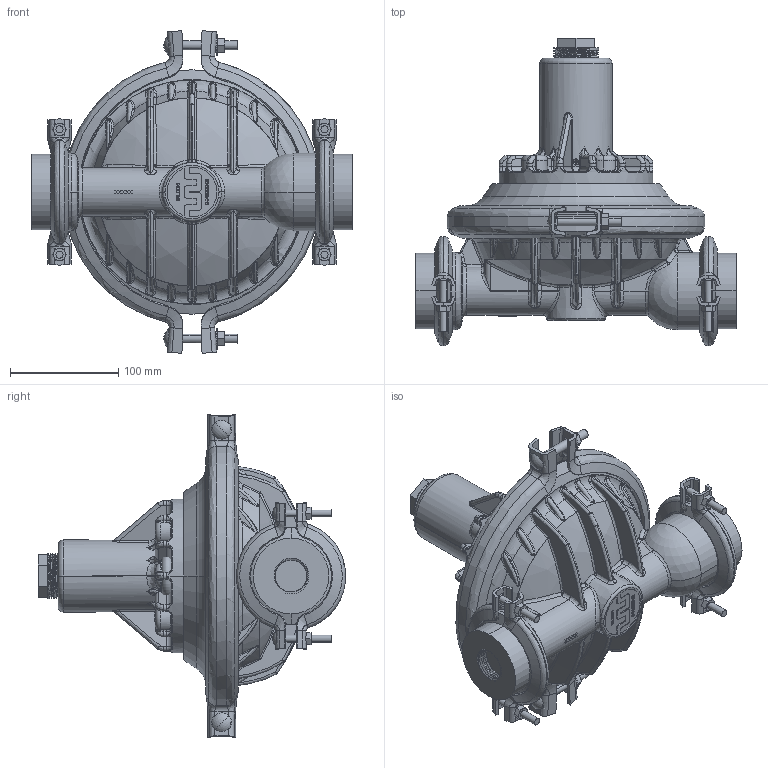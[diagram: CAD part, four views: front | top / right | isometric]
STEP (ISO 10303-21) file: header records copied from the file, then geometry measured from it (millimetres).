
FILE_DESCRIPTION (( 'STEP AP214' ), '1' );
FILE_NAME ('SD1-Metal_Top.STEP', '2026-04-30T07:03:52', ( '' ), ( '' ), 'SwSTEP 2.0', 'SolidWorks 2022', '' );
FILE_SCHEMA (( 'AUTOMOTIVE_DESIGN' ));
Length unit declared in the file: inch
Products named in the file (1): SD1-Metal_Top
Bounding box: 295.27 x 283.38 x 297.65 mm (x, y, z)
Volume: 4017748.9 mm3; surface area: 337560.8 mm2
Topology: 1 solids, 1 shells, 2447 faces, 6162 edges, 3736 vertices
Faces by surface type: bspline 838, plane 825, cylinder 404, cone 171, torus 162, sphere 47
Entity records: 199423 total; most frequent: CARTESIAN_POINT 149514, ORIENTED_EDGE 12184, DIRECTION 7665, EDGE_CURVE 6092, VERTEX_POINT 3694, AXIS2_PLACEMENT_3D 2678, B_SPLINE_CURVE_WITH_KNOTS 2569, EDGE_LOOP 2502
